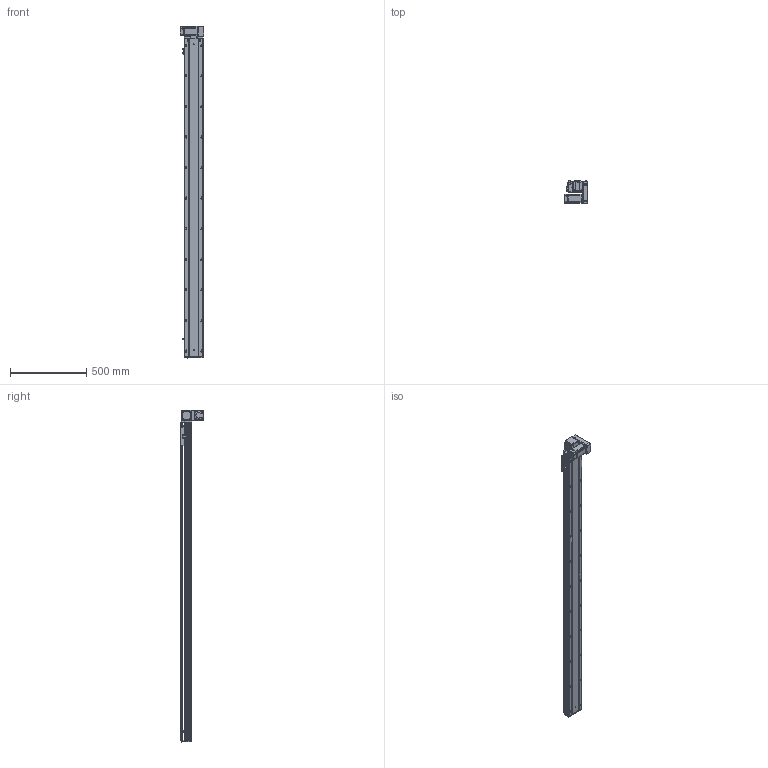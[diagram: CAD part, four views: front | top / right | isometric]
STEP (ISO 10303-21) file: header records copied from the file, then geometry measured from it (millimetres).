
FILE_DESCRIPTION (( 'STEP AP203' ), '1' );
FILE_NAME ('RY120-T-300-DR.SLDASM_1850.step', '2021-03-01T03:37:12', ( '盈信电脑' ), ( '东莞市道滘镇水果街19号' ), 'SwSTEP 2.0', 'SolidWorks 2012', '' );
FILE_SCHEMA (( 'CONFIG_CONTROL_DESIGN' ));
Length unit declared in the file: millimetre
Products named in the file (17): RY120肮祭湍臏賑輸; RY120-T-300-DR.SLDASM_1850; RY120-T萇儂欶; RY120-T主同步轮轴承压盖; RY120-T蹟翐M4; RY120-T萇儂假蚾啣; RY120-T翋肮祭盓傅釱; RY120-T翋肮祭謫裔啣; 滅袉蝶18-10; 15; RY120-T肮祭湍揤踡輸1; RY120-T肮祭湍揤踡輸2; RY120外置感应片(140共用）; 覜茼ん672; RY120綴裔啣; RY120-T-300-DR倰第奻裔啣_1850; RY120-T-300-DR倰第菁釱_1850
Assembly tree (22 placements, depth 2):
  RY120-T-300-DR.SLDASM_1850
    RY120-T-300-DR倰第菁釱_1850
    RY120-T-300-DR倰第奻裔啣_1850
    RY120肮祭湍臏賑輸
    RY120綴裔啣
    覜茼ん672  x3
    RY120外置感应片(140共用）
    RY120-T肮祭湍揤踡輸1
    RY120-T肮祭湍揤踡輸2
    RY120-T翋肮祭盓傅釱
    滅袉蝶18-10  x2
    RY120-T翋肮祭謫裔啣
    15
    RY120-T萇儂假蚾啣
    RY120-T蹟翐M4  x4
    RY120-T萇儂欶
    RY120-T主同步轮轴承压盖
Bounding box: 155.5 x 150 x 2171 mm (x, y, z)
Volume: 5477178.6 mm3; surface area: 2088204.6 mm2
Topology: 23 solids, 23 shells, 3100 faces, 8492 edges, 5418 vertices
Faces by surface type: plane 1456, cylinder 1240, cone 315, bspline 89
Entity records: 99925 total; most frequent: CARTESIAN_POINT 26196, ORIENTED_EDGE 15296, DIRECTION 14394, EDGE_CURVE 7648, VERTEX_POINT 5005, AXIS2_PLACEMENT_3D 4887, LINE 4620, VECTOR 4620
